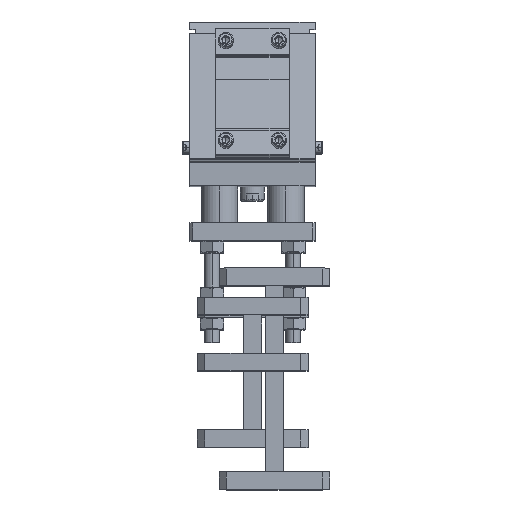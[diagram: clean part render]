
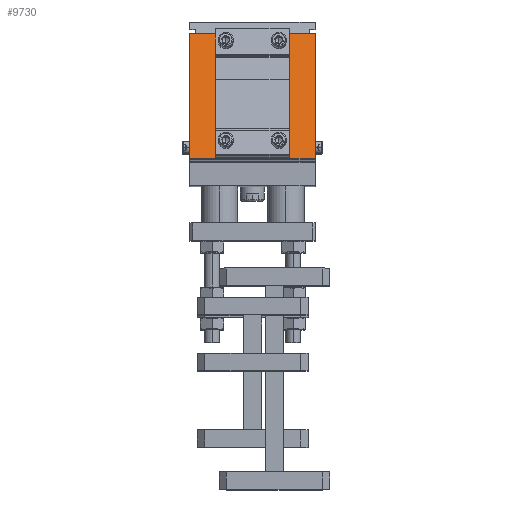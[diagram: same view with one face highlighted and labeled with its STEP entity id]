
A CAD part, top view. The second image highlights one B-rep face of the part: STEP entity #9730.
In plain terms, the highlighted planar face has unit normal (0, 0.244, 0.97).
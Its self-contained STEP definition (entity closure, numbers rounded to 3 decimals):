
#16 = ORIENTED_EDGE ( 'NONE', *, *, #24327, .T. ) ;
#273 = VECTOR ( 'NONE', #10772, 1000. ) ;
#1061 = LINE ( 'NONE', #9785, #16070 ) ;
#1694 = EDGE_LOOP ( 'NONE', ( #19423, #28689, #18765, #13710, #19591, #26354, #4787, #5904 ) ) ;
#1759 = EDGE_LOOP ( 'NONE', ( #10435, #16, #23685, #3788 ) ) ;
#1957 = DIRECTION ( 'NONE',  ( -1., 0., 0. ) ) ;
#2044 = CARTESIAN_POINT ( 'NONE',  ( 53.637, 165.21, 475.752 ) ) ;
#2208 = CARTESIAN_POINT ( 'NONE',  ( 71.137, 249.722, 454.507 ) ) ;
#2489 = CARTESIAN_POINT ( 'NONE',  ( 3.637, 165.21, 475.752 ) ) ;
#3333 = CARTESIAN_POINT ( 'NONE',  ( 331.147, 165.21, 475.752 ) ) ;
#3788 = ORIENTED_EDGE ( 'NONE', *, *, #10169, .T. ) ;
#3905 = CARTESIAN_POINT ( 'NONE',  ( 53.637, 249.722, 454.507 ) ) ;
#3915 = CARTESIAN_POINT ( 'NONE',  ( 71.137, 249.722, 454.507 ) ) ;
#4021 = CARTESIAN_POINT ( 'NONE',  ( 3.637, 165.736, 475.62 ) ) ;
#4248 = VECTOR ( 'NONE', #1957, 1000. ) ;
#4500 = VECTOR ( 'NONE', #5547, 1000. ) ;
#4642 = DIRECTION ( 'NONE',  ( -1., 0., 0. ) ) ;
#4787 = ORIENTED_EDGE ( 'NONE', *, *, #7290, .T. ) ;
#5421 = VECTOR ( 'NONE', #6156, 1000. ) ;
#5547 = DIRECTION ( 'NONE',  ( 0., 0.97, -0.244 ) ) ;
#5896 = EDGE_CURVE ( 'NONE', #15305, #17798, #10628, .T. ) ;
#5904 = ORIENTED_EDGE ( 'NONE', *, *, #26763, .F. ) ;
#6030 = VECTOR ( 'NONE', #27856, 1000. ) ;
#6156 = DIRECTION ( 'NONE',  ( 0., -0.97, 0.244 ) ) ;
#6808 = AXIS2_PLACEMENT_3D ( 'NONE', #21574, #23775, #10684 ) ;
#7290 = EDGE_CURVE ( 'NONE', #26111, #23399, #26694, .T. ) ;
#7478 = EDGE_CURVE ( 'NONE', #20718, #24169, #28433, .T. ) ;
#8148 = CARTESIAN_POINT ( 'NONE',  ( 3.637, 165.21, 475.752 ) ) ;
#9159 = VECTOR ( 'NONE', #21059, 1000. ) ;
#9166 = DIRECTION ( 'NONE',  ( 0., 0.97, -0.244 ) ) ;
#9648 = DIRECTION ( 'NONE',  ( -1., 0., 0. ) ) ;
#9730 = ADVANCED_FACE ( 'NONE', ( #28444, #10824 ), #24076, .T. ) ;
#9785 = CARTESIAN_POINT ( 'NONE',  ( 331.147, 249.722, 454.507 ) ) ;
#10169 = EDGE_CURVE ( 'NONE', #12337, #24396, #10195, .T. ) ;
#10195 = LINE ( 'NONE', #8148, #4500 ) ;
#10435 = ORIENTED_EDGE ( 'NONE', *, *, #14947, .T. ) ;
#10628 = LINE ( 'NONE', #3915, #273 ) ;
#10684 = DIRECTION ( 'NONE',  ( 0., -0.97, 0.244 ) ) ;
#10772 = DIRECTION ( 'NONE',  ( 0., -0.97, 0.244 ) ) ;
#10824 = FACE_BOUND ( 'NONE', #1759, .T. ) ;
#12337 = VERTEX_POINT ( 'NONE', #4021 ) ;
#12350 = VECTOR ( 'NONE', #18114, 1000. ) ;
#12665 = VERTEX_POINT ( 'NONE', #28133 ) ;
#13439 = CARTESIAN_POINT ( 'NONE',  ( 331.147, 165.736, 475.62 ) ) ;
#13710 = ORIENTED_EDGE ( 'NONE', *, *, #7478, .T. ) ;
#14304 = VECTOR ( 'NONE', #25105, 1000. ) ;
#14751 = CARTESIAN_POINT ( 'NONE',  ( 331.147, 218.471, 462.363 ) ) ;
#14947 = EDGE_CURVE ( 'NONE', #24396, #22006, #23764, .T. ) ;
#15305 = VERTEX_POINT ( 'NONE', #2208 ) ;
#15607 = CARTESIAN_POINT ( 'NONE',  ( 71.137, 165.21, 475.752 ) ) ;
#15702 = LINE ( 'NONE', #24588, #17444 ) ;
#16070 = VECTOR ( 'NONE', #9648, 1000. ) ;
#16216 = CARTESIAN_POINT ( 'NONE',  ( -13.863, 165.21, 475.752 ) ) ;
#16238 = EDGE_CURVE ( 'NONE', #12665, #12337, #17358, .T. ) ;
#16556 = LINE ( 'NONE', #3333, #9159 ) ;
#16634 = VECTOR ( 'NONE', #9166, 1000. ) ;
#17358 = LINE ( 'NONE', #13439, #4248 ) ;
#17444 = VECTOR ( 'NONE', #4642, 1000. ) ;
#17798 = VERTEX_POINT ( 'NONE', #15607 ) ;
#17854 = EDGE_CURVE ( 'NONE', #15305, #20718, #1061, .T. ) ;
#17944 = CARTESIAN_POINT ( 'NONE',  ( 3.637, 233.632, 458.552 ) ) ;
#18114 = DIRECTION ( 'NONE',  ( -1., 0., 0. ) ) ;
#18311 = CARTESIAN_POINT ( 'NONE',  ( 3.637, 218.471, 462.363 ) ) ;
#18765 = ORIENTED_EDGE ( 'NONE', *, *, #17854, .T. ) ;
#19423 = ORIENTED_EDGE ( 'NONE', *, *, #26007, .T. ) ;
#19452 = CARTESIAN_POINT ( 'NONE',  ( -13.863, 165.21, 475.752 ) ) ;
#19453 = CARTESIAN_POINT ( 'NONE',  ( 3.637, 249.722, 454.507 ) ) ;
#19591 = ORIENTED_EDGE ( 'NONE', *, *, #24789, .T. ) ;
#20718 = VERTEX_POINT ( 'NONE', #3905 ) ;
#21059 = DIRECTION ( 'NONE',  ( 1., 0., 0. ) ) ;
#21260 = VERTEX_POINT ( 'NONE', #17944 ) ;
#21574 = CARTESIAN_POINT ( 'NONE',  ( 331.147, 165.21, 475.752 ) ) ;
#21823 = LINE ( 'NONE', #2044, #23467 ) ;
#22006 = VERTEX_POINT ( 'NONE', #22986 ) ;
#22032 = VERTEX_POINT ( 'NONE', #19452 ) ;
#22572 = CARTESIAN_POINT ( 'NONE',  ( 53.637, 233.632, 458.552 ) ) ;
#22986 = CARTESIAN_POINT ( 'NONE',  ( 53.637, 218.471, 462.363 ) ) ;
#23399 = VERTEX_POINT ( 'NONE', #25305 ) ;
#23467 = VECTOR ( 'NONE', #28527, 1000. ) ;
#23471 = CARTESIAN_POINT ( 'NONE',  ( 53.637, 165.21, 475.752 ) ) ;
#23685 = ORIENTED_EDGE ( 'NONE', *, *, #16238, .T. ) ;
#23764 = LINE ( 'NONE', #14751, #6030 ) ;
#23775 = DIRECTION ( 'NONE',  ( 0., 0.244, 0.97 ) ) ;
#24076 = PLANE ( 'NONE',  #6808 ) ;
#24169 = VERTEX_POINT ( 'NONE', #22572 ) ;
#24327 = EDGE_CURVE ( 'NONE', #22006, #12665, #21823, .T. ) ;
#24396 = VERTEX_POINT ( 'NONE', #18311 ) ;
#24538 = CARTESIAN_POINT ( 'NONE',  ( 331.147, 249.722, 454.507 ) ) ;
#24588 = CARTESIAN_POINT ( 'NONE',  ( 331.147, 233.632, 458.552 ) ) ;
#24609 = LINE ( 'NONE', #2489, #16634 ) ;
#24789 = EDGE_CURVE ( 'NONE', #24169, #21260, #15702, .T. ) ;
#25105 = DIRECTION ( 'NONE',  ( 0., 0.97, -0.244 ) ) ;
#25305 = CARTESIAN_POINT ( 'NONE',  ( -13.863, 249.722, 454.507 ) ) ;
#26007 = EDGE_CURVE ( 'NONE', #22032, #17798, #16556, .T. ) ;
#26111 = VERTEX_POINT ( 'NONE', #19453 ) ;
#26354 = ORIENTED_EDGE ( 'NONE', *, *, #28540, .T. ) ;
#26694 = LINE ( 'NONE', #24538, #12350 ) ;
#26763 = EDGE_CURVE ( 'NONE', #22032, #23399, #27700, .T. ) ;
#27700 = LINE ( 'NONE', #16216, #14304 ) ;
#27856 = DIRECTION ( 'NONE',  ( 1., 0., 0. ) ) ;
#28133 = CARTESIAN_POINT ( 'NONE',  ( 53.637, 165.736, 475.62 ) ) ;
#28433 = LINE ( 'NONE', #23471, #5421 ) ;
#28444 = FACE_OUTER_BOUND ( 'NONE', #1694, .T. ) ;
#28527 = DIRECTION ( 'NONE',  ( 0., -0.97, 0.244 ) ) ;
#28540 = EDGE_CURVE ( 'NONE', #21260, #26111, #24609, .T. ) ;
#28689 = ORIENTED_EDGE ( 'NONE', *, *, #5896, .F. ) ;
